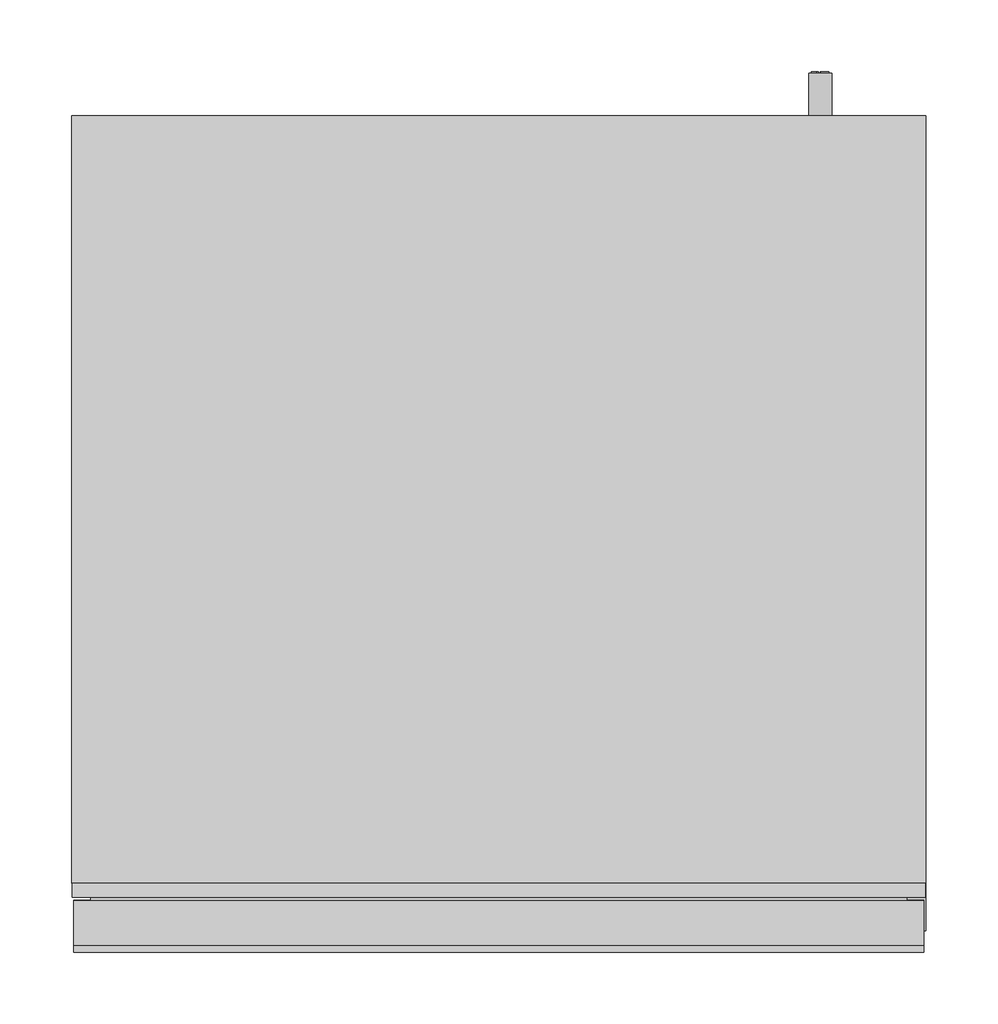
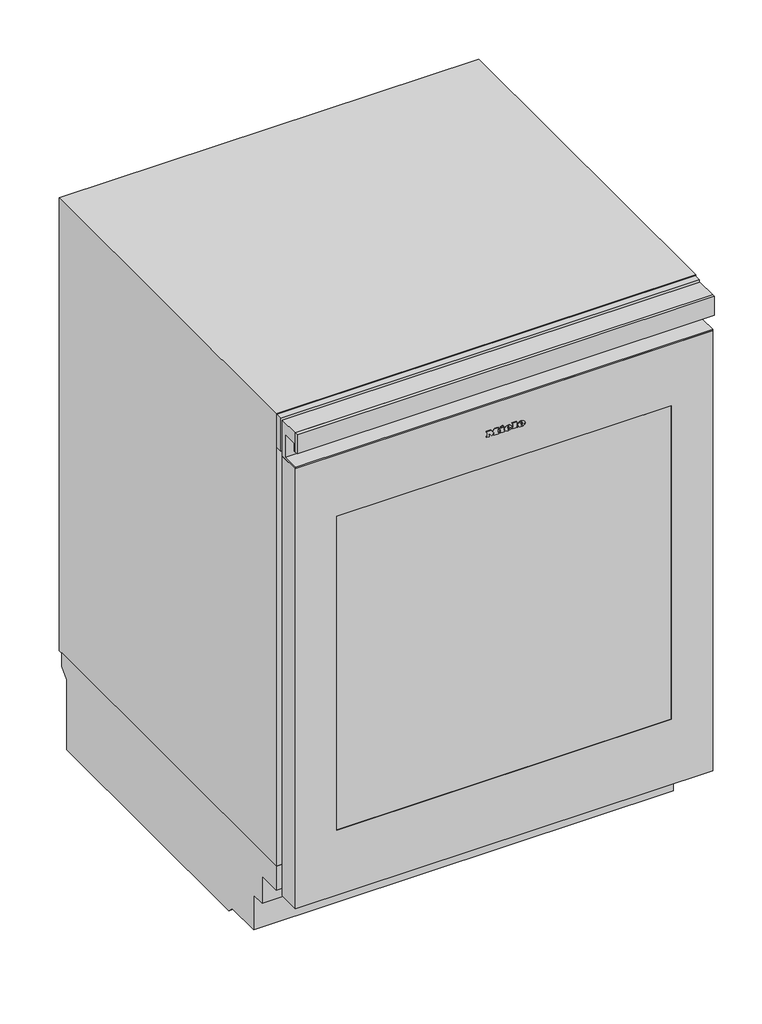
# Not in any storey: 1 proxy.
"""IFC4 building model written with IfcOpenShell, lengths in millimetres."""

from ifc_helpers import new_model, si_unit, origin, place, context, project, spatial, transform, mapped, element, save
from components import specialty_equipment_8fe20f08

model = new_model("IFC4")

# Units and contexts
model_context = context("Model", 3, world=origin())
ifc_project = project(units=[si_unit("LENGTHUNIT", "METRE", prefix="MILLI")], contexts=[model_context])

# Site, building
site = spatial("IfcSite", under=ifc_project)
building = spatial("IfcBuilding", under=site)

# Proxy
placement = place(None, origin())
specialty_equipment_shape = specialty_equipment_8fe20f08(model_context)
element("IfcBuildingElementProxy", 1, Name="12519500_EU1_KWTUS7055F_OBSW : 39705510_EU1_12519500_KWTUS7055F_OBSW", ObjectType="12519500_EU1_KWTUS7055F_OBSW : 39705510_EU1_12519500_KWTUS7055F_OBSW", at=placement, inside=building, context=model_context, shape_type="MappedRepresentation", body=[
    mapped(specialty_equipment_shape, transform((0.0, 0.0, 0.0), x_axis=(1.0, 0.0, 0.0), y_axis=(0.0, 1.0, 0.0), z_axis=(0.0, 0.0, 1.0))),
])

save(model, "model.ifc")
